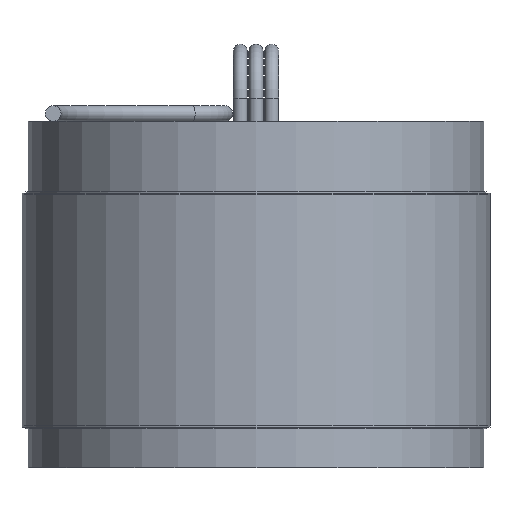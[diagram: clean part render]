
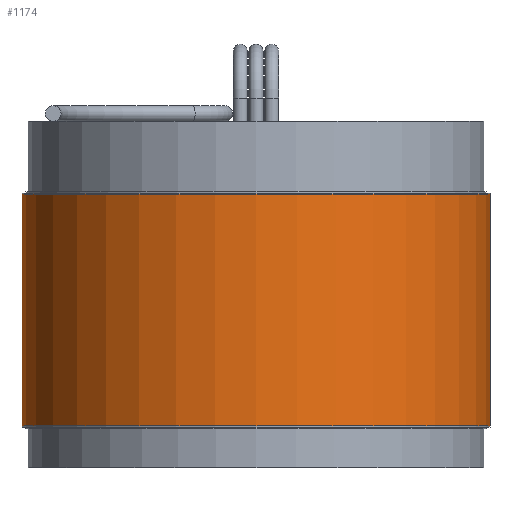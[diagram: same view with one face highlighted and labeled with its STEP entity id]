
A CAD part, front view. The second image highlights one B-rep face of the part: STEP entity #1174.
In plain terms, the highlighted cylindrical face has radius 38.1 mm (diameter 76.2 mm), a full revolution.
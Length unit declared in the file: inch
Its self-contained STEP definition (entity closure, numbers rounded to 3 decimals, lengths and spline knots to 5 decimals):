
#31 = CIRCLE ( 'NONE', #1078, 1.5 ) ;
#34 = AXIS2_PLACEMENT_3D ( 'NONE', #462, #681, #904 ) ;
#113 = VERTEX_POINT ( 'NONE', #278 ) ;
#122 = FACE_OUTER_BOUND ( 'NONE', #930, .T. ) ;
#196 = DIRECTION ( 'NONE',  ( 0., 0., 1. ) ) ;
#278 = CARTESIAN_POINT ( 'NONE',  ( 1.5, 0., -0.74213 ) ) ;
#390 = DIRECTION ( 'NONE',  ( 1., 0., 0. ) ) ;
#406 = CARTESIAN_POINT ( 'NONE',  ( 1.5, 0., 0.74213 ) ) ;
#462 = CARTESIAN_POINT ( 'NONE',  ( 0., 0., -0.76 ) ) ;
#629 = EDGE_LOOP ( 'NONE', ( #748 ) ) ;
#646 = DIRECTION ( 'NONE',  ( 1., 0., 0. ) ) ;
#681 = DIRECTION ( 'NONE',  ( 0., 0., 1. ) ) ;
#685 = CIRCLE ( 'NONE', #766, 1.5 ) ;
#748 = ORIENTED_EDGE ( 'NONE', *, *, #780, .T. ) ;
#766 = AXIS2_PLACEMENT_3D ( 'NONE', #1291, #196, #646 ) ;
#780 = EDGE_CURVE ( 'NONE', #113, #113, #31, .T. ) ;
#831 = ORIENTED_EDGE ( 'NONE', *, *, #933, .F. ) ;
#875 = FACE_OUTER_BOUND ( 'NONE', #629, .T. ) ;
#904 = DIRECTION ( 'NONE',  ( 1., 0., 0. ) ) ;
#930 = EDGE_LOOP ( 'NONE', ( #831 ) ) ;
#933 = EDGE_CURVE ( 'NONE', #1415, #1415, #685, .T. ) ;
#1048 = CARTESIAN_POINT ( 'NONE',  ( 0., 0., -0.74213 ) ) ;
#1078 = AXIS2_PLACEMENT_3D ( 'NONE', #1048, #1264, #390 ) ;
#1174 = ADVANCED_FACE ( 'NONE', ( #122, #875 ), #1371, .T. ) ;
#1264 = DIRECTION ( 'NONE',  ( 0., 0., 1. ) ) ;
#1291 = CARTESIAN_POINT ( 'NONE',  ( 0., 0., 0.74213 ) ) ;
#1371 = CYLINDRICAL_SURFACE ( 'NONE', #34, 1.5 ) ;
#1415 = VERTEX_POINT ( 'NONE', #406 ) ;
